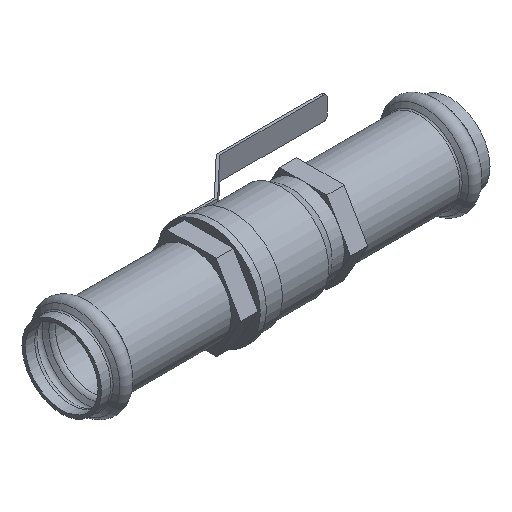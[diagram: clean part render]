
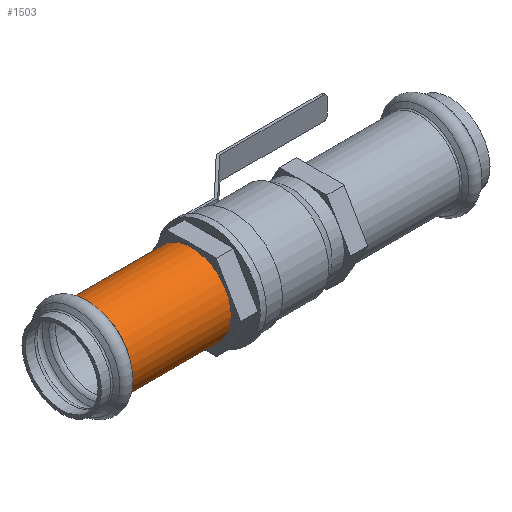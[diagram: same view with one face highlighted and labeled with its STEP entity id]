
A CAD part, isometric view. The second image highlights one B-rep face of the part: STEP entity #1503.
In plain terms, the highlighted cylindrical face has radius 32.931 mm (diameter 65.862 mm), a full revolution.
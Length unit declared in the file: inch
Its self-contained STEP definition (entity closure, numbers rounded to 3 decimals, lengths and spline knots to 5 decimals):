
#96=CYLINDRICAL_SURFACE('',#1689,1.2965);
#120=LINE('',#2516,#211);
#211=VECTOR('',#2042,1.2965);
#325=FACE_OUTER_BOUND('',#399,.T.);
#399=EDGE_LOOP('',(#1155,#1156,#1157,#1158,#1159,#1160,#1161));
#542=CIRCLE('',#1686,1.2965);
#543=CIRCLE('',#1687,1.2965);
#544=CIRCLE('',#1688,1.2965);
#545=CIRCLE('',#1690,1.2965);
#546=CIRCLE('',#1691,1.2965);
#656=VERTEX_POINT('',#2504);
#657=VERTEX_POINT('',#2506);
#658=VERTEX_POINT('',#2508);
#659=VERTEX_POINT('',#2512);
#660=VERTEX_POINT('',#2513);
#837=EDGE_CURVE('',#657,#656,#542,.T.);
#838=EDGE_CURVE('',#658,#657,#543,.T.);
#839=EDGE_CURVE('',#656,#658,#544,.T.);
#840=EDGE_CURVE('',#659,#660,#545,.T.);
#841=EDGE_CURVE('',#660,#659,#546,.T.);
#842=EDGE_CURVE('',#660,#658,#120,.T.);
#1155=ORIENTED_EDGE('',*,*,#840,.F.);
#1156=ORIENTED_EDGE('',*,*,#841,.F.);
#1157=ORIENTED_EDGE('',*,*,#842,.T.);
#1158=ORIENTED_EDGE('',*,*,#838,.T.);
#1159=ORIENTED_EDGE('',*,*,#837,.T.);
#1160=ORIENTED_EDGE('',*,*,#839,.T.);
#1161=ORIENTED_EDGE('',*,*,#842,.F.);
#1503=ADVANCED_FACE('',(#325),#96,.T.);
#1686=AXIS2_PLACEMENT_3D('',#2507,#2030,#2031);
#1687=AXIS2_PLACEMENT_3D('',#2509,#2032,#2033);
#1688=AXIS2_PLACEMENT_3D('',#2510,#2034,#2035);
#1689=AXIS2_PLACEMENT_3D('',#2511,#2036,#2037);
#1690=AXIS2_PLACEMENT_3D('',#2514,#2038,#2039);
#1691=AXIS2_PLACEMENT_3D('',#2515,#2040,#2041);
#2030=DIRECTION('center_axis',(1.,0.,0.));
#2031=DIRECTION('ref_axis',(0.,0.,-1.));
#2032=DIRECTION('center_axis',(1.,0.,0.));
#2033=DIRECTION('ref_axis',(0.,0.,-1.));
#2034=DIRECTION('center_axis',(1.,0.,0.));
#2035=DIRECTION('ref_axis',(0.,0.,-1.));
#2036=DIRECTION('center_axis',(1.,0.,0.));
#2037=DIRECTION('ref_axis',(0.,1.,0.));
#2038=DIRECTION('center_axis',(1.,0.,0.));
#2039=DIRECTION('ref_axis',(0.,1.,0.));
#2040=DIRECTION('center_axis',(1.,0.,0.));
#2041=DIRECTION('ref_axis',(0.,1.,0.));
#2042=DIRECTION('',(-1.,0.,0.));
#2504=CARTESIAN_POINT('',(-5.35678,0.,1.2965));
#2506=CARTESIAN_POINT('',(-5.35678,1.2965,0.));
#2507=CARTESIAN_POINT('Origin',(-5.35678,0.,0.));
#2508=CARTESIAN_POINT('',(-5.35678,-1.2965,0.));
#2509=CARTESIAN_POINT('Origin',(-5.35678,0.,0.));
#2510=CARTESIAN_POINT('Origin',(-5.35678,0.,0.));
#2511=CARTESIAN_POINT('Origin',(-3.73089,0.,
0.));
#2512=CARTESIAN_POINT('',(-2.105,1.2965,0.));
#2513=CARTESIAN_POINT('',(-2.105,-1.2965,0.));
#2514=CARTESIAN_POINT('Origin',(-2.105,0.,0.));
#2515=CARTESIAN_POINT('Origin',(-2.105,0.,0.));
#2516=CARTESIAN_POINT('',(-3.73089,-1.2965,0.));
